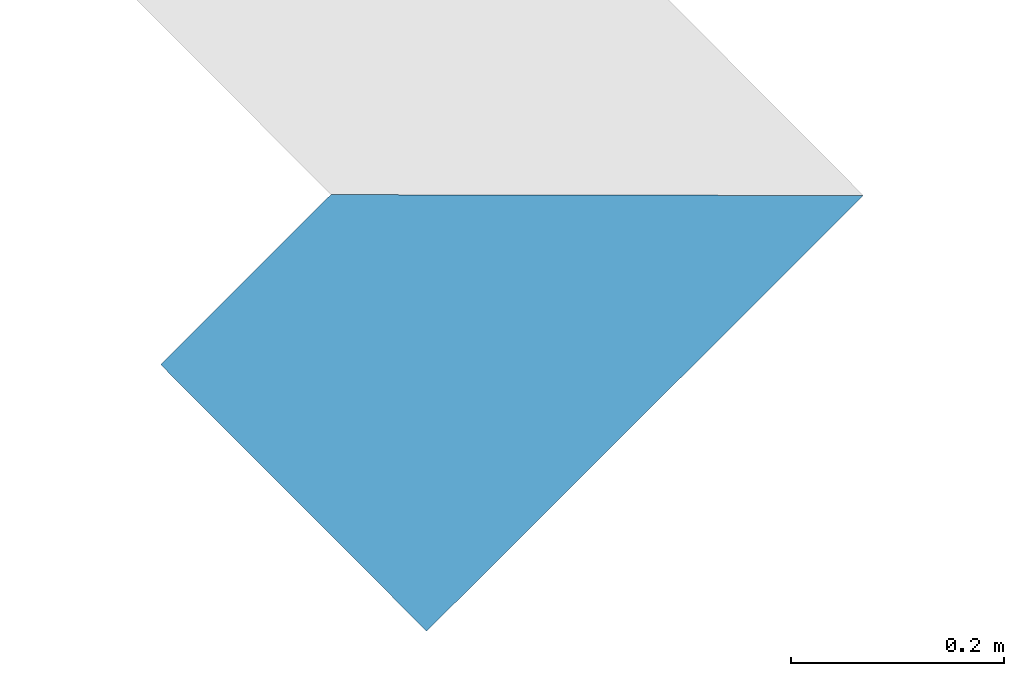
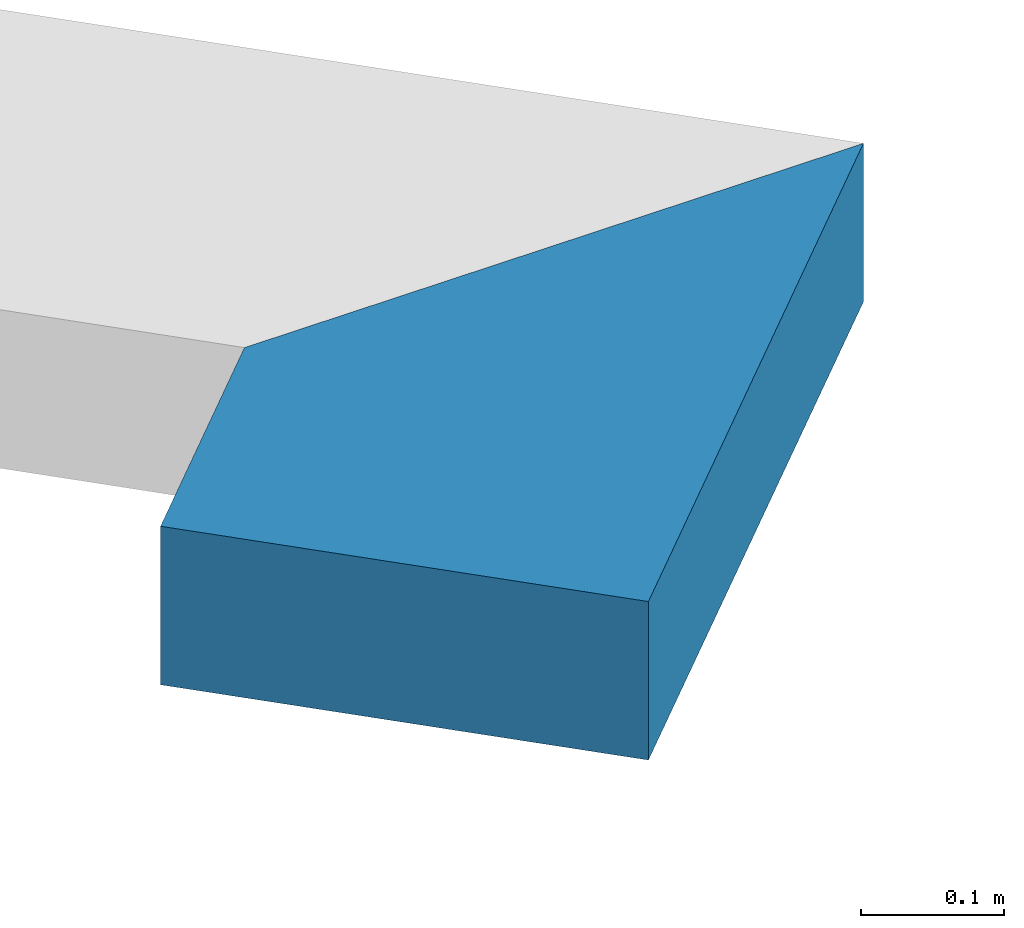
# One storey, part 34 of 91: 1 wall.
"""IFC2X3 building model written with IfcOpenShell, lengths in metres."""

import ifcopenshell
import ifcopenshell.guid

model = None  # the IFC model being written
_history = None  # IfcOwnerHistory: only IFC2X3 demands one
_inside = {}  # id of a spatial element -> (the spatial element, [elements in it])
_under = {}  # id of a project, library or spatial element -> (it, [spatial elements below it])
_declared = {}  # id of a project -> (the project, [libraries it declares])
_typed = {}  # id of a type object -> (the type object, [elements of that type])
_made_of = {}  # id of a material, layer set ... -> (it, [elements and type objects made of it])


def new_model(schema):
    """Start an empty IFC model of exactly this schema.

    Asked for "IFC4X3", IfcOpenShell would pick the latest addendum, in which some entities
    have other attributes; the version numbers below select the first issue.
    IFC2X3 requires an IfcOwnerHistory on every rooted entity: one is made here for all.
    """
    global model, _history
    if schema == "IFC4X3":
        model = ifcopenshell.file(schema_version=(4, 3, 0, 0))
    else:
        model = ifcopenshell.file(schema=schema)
    _inside.clear()
    _under.clear()
    _declared.clear()
    _typed.clear()
    _made_of.clear()
    _history = None
    if model.schema == "IFC2X3":
        org = make("IfcOrganization", Name="unknown")
        user = make(
            "IfcPersonAndOrganization",
            ThePerson=make("IfcPerson", FamilyName="unknown"),
            TheOrganization=org,
        )
        app = make(
            "IfcApplication",
            ApplicationDeveloper=org,
            Version="unknown",
            ApplicationFullName="unknown",
            ApplicationIdentifier="unknown",
        )
        _history = make(
            "IfcOwnerHistory",
            OwningUser=user,
            OwningApplication=app,
            ChangeAction="ADDED",
            CreationDate=0,
        )
    return model


def make(cls, **values):
    """One entity of the class cls with the attributes given. An attribute that is None is left unset."""
    return model.create_entity(
        cls, **{name: value for name, value in values.items() if value is not None}
    )


def entity(cls, *values):
    """Any entity or typed value of the class cls, its attributes in the order of the schema. None: left unset."""
    e = model.create_entity(cls)
    for i, value in enumerate(values):
        if value is not None:
            e[i] = value
    return e


def rooted(cls, **values):
    """An entity with a GlobalId (a new one), such as an element, a storey or a relation."""
    return make(cls, GlobalId=ifcopenshell.guid.new(), OwnerHistory=_history, **values)


def si_unit(unit_type, name, prefix=None):
    """IfcSIUnit, for example si_unit("LENGTHUNIT", "METRE", prefix="MILLI")."""
    return make("IfcSIUnit", UnitType=unit_type, Prefix=prefix, Name=name)


def converted_unit(unit_type, name, factor, base, dimensions=None, offset=None):
    """IfcConversionBasedUnit, such as the inch: factor (a typed value) times the base unit."""
    return make(
        "IfcConversionBasedUnit"
        if offset is None
        else "IfcConversionBasedUnitWithOffset",
        ConversionOffset=offset,
        Dimensions=None
        if dimensions is None
        else entity("IfcDimensionalExponents", *dimensions),
        UnitType=unit_type,
        Name=name,
        ConversionFactor=make(
            "IfcMeasureWithUnit", ValueComponent=factor, UnitComponent=base
        ),
    )


def derived_unit(unit_type, elements):
    """IfcDerivedUnit: a product of units, each with its exponent."""
    return make(
        "IfcDerivedUnit",
        Elements=[
            make("IfcDerivedUnitElement", Unit=unit, Exponent=power)
            for unit, power in elements
        ],
        UnitType=unit_type,
    )


def money_unit(currency):
    """IfcMonetaryUnit."""
    return make("IfcMonetaryUnit", Currency=currency)


def assignment(units):
    """IfcUnitAssignment: the units of a project."""
    return None if units is None else make("IfcUnitAssignment", Units=units)


def point(xyz):
    """IfcCartesianPoint."""
    return None if xyz is None else make("IfcCartesianPoint", Coordinates=xyz)


def direction(xyz):
    """IfcDirection."""
    return None if xyz is None else make("IfcDirection", DirectionRatios=xyz)


def frame(location, z_axis=None, x_axis=None):
    """IfcAxis2Placement3D, a coordinate frame: its origin and axes. An axis left out is left unset."""
    return make(
        "IfcAxis2Placement3D",
        Location=point(location),
        Axis=direction(z_axis),
        RefDirection=direction(x_axis),
    )


def origin_with_axes():
    """The frame at (0, 0, 0) with the z axis (0, 0, 1) and the x axis (1, 0, 0) written out."""
    return frame((0.0, 0.0, 0.0), z_axis=(0.0, 0.0, 1.0), x_axis=(1.0, 0.0, 0.0))


def place(relative_to, where):
    """IfcLocalPlacement: puts the frame where relative to a parent placement (None: the world)."""
    return make(
        "IfcLocalPlacement", PlacementRelTo=relative_to, RelativePlacement=where
    )


def context(
    kind, dimensions, precision=None, world=None, true_north=None, identifier=None
):
    """IfcGeometricRepresentationContext, for example the 3D "Model" context."""
    return make(
        "IfcGeometricRepresentationContext",
        ContextIdentifier=identifier,
        ContextType=kind,
        CoordinateSpaceDimension=dimensions,
        Precision=precision,
        WorldCoordinateSystem=world,
        TrueNorth=true_north,
    )


def subcontext(parent, identifier, kind, view, scale=None):
    """IfcGeometricRepresentationSubContext, for example "Body" below "Model"."""
    return make(
        "IfcGeometricRepresentationSubContext",
        ContextIdentifier=identifier,
        ContextType=kind,
        ParentContext=parent,
        TargetScale=scale,
        TargetView=view,
    )


def project(units=None, contexts=None):
    """IfcProject with its units and contexts."""
    return rooted(
        "IfcProject",
        Name="project",
        RepresentationContexts=contexts,
        UnitsInContext=assignment(units),
    )


def spatial(cls, under=None, at=None, **own):
    """A site, building, storey or space (cls), placed at a placement, below another one or the project."""
    s = rooted(cls, ObjectPlacement=at, **own)
    if under is not None:
        _under.setdefault(under.id(), (under, []))[1].append(s)
    return s


def polyline(points):
    """IfcPolyline through the points."""
    return make("IfcPolyline", Points=[point(p) for p in points])


def outline(outer, holes=None, kind="AREA"):
    """IfcArbitraryClosedProfileDef: a profile drawn as a closed curve; with holes, ...WithVoids."""
    if holes is None:
        return make("IfcArbitraryClosedProfileDef", ProfileType=kind, OuterCurve=outer)
    return make(
        "IfcArbitraryProfileDefWithVoids",
        ProfileType=kind,
        OuterCurve=outer,
        InnerCurves=holes,
    )


def extrude(swept, where, along, depth):
    """IfcExtrudedAreaSolid: the profile swept, set in the frame where, extruded along a direction by depth."""
    return make(
        "IfcExtrudedAreaSolid",
        SweptArea=swept,
        Position=where,
        ExtrudedDirection=direction(along),
        Depth=depth,
    )


def shape(context_of_items, identifier, shape_type, items):
    """IfcShapeRepresentation: the items that make up one representation, for example the "Body"."""
    return make(
        "IfcShapeRepresentation",
        ContextOfItems=context_of_items,
        RepresentationIdentifier=identifier,
        RepresentationType=shape_type,
        Items=items,
    )


def material(Name=None, Category=None):
    """IfcMaterial."""
    return make("IfcMaterial", Name=Name, Category=Category)


def layer(
    of_material, thickness, ventilated=None, Name=None, Category=None, Priority=None
):
    """IfcMaterialLayer: one layer of a wall or slab, of a material (None: an air gap)."""
    return make(
        "IfcMaterialLayer",
        Material=of_material,
        LayerThickness=thickness,
        IsVentilated=ventilated,
        Name=Name,
        Category=Category,
        Priority=Priority,
    )


def layer_set(layers, Name=None):
    """IfcMaterialLayerSet."""
    return make("IfcMaterialLayerSet", MaterialLayers=layers, LayerSetName=Name)


def layer_usage(for_layer_set, set_direction, sense, offset, extent=None):
    """IfcMaterialLayerSetUsage: how a layer set lies in its element."""
    return make(
        "IfcMaterialLayerSetUsage",
        ForLayerSet=for_layer_set,
        LayerSetDirection=set_direction,
        DirectionSense=sense,
        OffsetFromReferenceLine=offset,
        ReferenceExtent=extent,
    )


def made_of(thing, what):
    """Note that an element or type object is made of a material, layer set ...; save() writes the relation."""
    if what is not None:
        _made_of.setdefault(what.id(), (what, []))[1].append(thing)
    return thing


def type_object(cls, material=None, **own):
    """A type object (cls), such as IfcWallType, which elements share."""
    return made_of(rooted(cls, **own), material)


def element(
    cls,
    number,
    at=None,
    inside=None,
    cuts=None,
    type_object=None,
    material=None,
    context=None,
    identifier="Body",
    shape_type=None,
    held_by="IfcProductDefinitionShape",
    body=None,
    shapes=None,
    **own,
):
    """One element of the class cls, such as IfcWall. Its Tag is "e" and its number.

    at: its placement. inside: the storey or other place that contains it. cuts: it is an
    opening in that element (IfcRelVoidsElement). A single representation is given by context,
    identifier, shape_type and body (its items); several are given by shapes. held_by: the class
    of the entity that holds the representations. save() writes the other relations.
    """
    e = rooted(cls, Tag="e%d" % number, ObjectPlacement=at, **own)
    if body is not None:
        shapes = [shape(context, identifier, shape_type, body)]
    if shapes is not None:
        e.Representation = make(held_by, Representations=shapes)
    if inside is not None:
        _inside.setdefault(inside.id(), (inside, []))[1].append(e)
    if cuts is not None:
        rooted(
            "IfcRelVoidsElement", RelatingBuildingElement=cuts, RelatedOpeningElement=e
        )
    if type_object is not None:
        _typed.setdefault(type_object.id(), (type_object, []))[1].append(e)
    return made_of(e, material)


def aggregate(whole, parts):
    """IfcRelAggregates: a whole, such as a stair, and the parts it consists of."""
    return rooted("IfcRelAggregates", RelatingObject=whole, RelatedObjects=parts)


def save(model, path):
    """Write the relations noted so far, then the file.

    IfcRelAggregates (storeys below a building ...), IfcRelContainedInSpatialStructure (elements
    in a storey), IfcRelDefinesByType, IfcRelAssociatesMaterial and IfcRelDeclares: one each for
    every whole, place, type object, material and project.
    """
    for whole, parts in _under.values():
        aggregate(whole, parts)
    for where, things in _inside.values():
        rooted(
            "IfcRelContainedInSpatialStructure",
            RelatedElements=things,
            RelatingStructure=where,
        )
    for kind, things in _typed.values():
        rooted("IfcRelDefinesByType", RelatedObjects=things, RelatingType=kind)
    for what, things in _made_of.values():
        rooted("IfcRelAssociatesMaterial", RelatedObjects=things, RelatingMaterial=what)
    for by, libraries in _declared.values():
        rooted("IfcRelDeclares", RelatingContext=by, RelatedDefinitions=libraries)
    model.write(path)


model = new_model("IFC2X3")

# Units and contexts
model_context = context("Model", 3, precision=1e-05, world=origin_with_axes(), true_north=direction((0.0, 1.0)))
body_context = subcontext(model_context, "Body", "Model", "MODEL_VIEW")
ifc_project = project(units=[si_unit("LENGTHUNIT", "METRE"), si_unit("AREAUNIT", "SQUARE_METRE"), si_unit("VOLUMEUNIT", "CUBIC_METRE"), converted_unit("PLANEANGLEUNIT", "DEGREE", entity("IfcPlaneAngleMeasure", 0.0174532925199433), si_unit("PLANEANGLEUNIT", "RADIAN"), dimensions=[0, 0, 0, 0, 0, 0, 0]), money_unit("EUR"), converted_unit("TIMEUNIT", "Year", entity("IfcTimeMeasure", 31557600.0), si_unit("TIMEUNIT", "SECOND"), dimensions=[0, 0, 1, 0, 0, 0, 0]), si_unit("MASSUNIT", "GRAM", prefix="KILO"), si_unit("THERMODYNAMICTEMPERATUREUNIT", "DEGREE_CELSIUS"), si_unit("LUMINOUSINTENSITYUNIT", "LUMEN"), si_unit("ENERGYUNIT", "JOULE", prefix="MEGA"), derived_unit("THERMALCONDUCTANCEUNIT", [(si_unit("POWERUNIT", "WATT"), 1), (si_unit("LENGTHUNIT", "METRE"), -1), (si_unit("THERMODYNAMICTEMPERATUREUNIT", "KELVIN"), -1)]), derived_unit("SPECIFICHEATCAPACITYUNIT", [(si_unit("ENERGYUNIT", "JOULE"), 1), (si_unit("MASSUNIT", "GRAM", prefix="KILO"), -1), (si_unit("THERMODYNAMICTEMPERATUREUNIT", "KELVIN"), -1)]), derived_unit("MASSDENSITYUNIT", [(si_unit("MASSUNIT", "GRAM", prefix="KILO"), 1), (si_unit("VOLUMEUNIT", "CUBIC_METRE"), -1)])], contexts=[model_context])

# Site, building, storey
site_placement = place(None, origin_with_axes())
site = spatial("IfcSite", under=ifc_project, at=site_placement, Name="Site", CompositionType="ELEMENT")
building_placement = place(site_placement, origin_with_axes())
building = spatial("IfcBuilding", under=site, at=building_placement, Name="Bâtiment", CompositionType="ELEMENT")
storey_placement = place(building_placement, origin_with_axes())
storey = spatial("IfcBuildingStorey", under=building, at=storey_placement, Name="RDC", CompositionType="ELEMENT", Elevation=0.0)

# Wall
ifc_material_1 = material(Name="*GENERIQUE - ENDUIT EXT")
ifc_layer_1 = layer(ifc_material_1, 0.02, ventilated="UNKNOWN")
ifc_material_2 = material(Name="*GENERIQUE - MAÇONNERIE")
ifc_layer_2 = layer(ifc_material_2, 0.2, ventilated="UNKNOWN")
ifc_material_3 = material(Name="*GENERIQUE - ISOLATION INT")
ifc_layer_3 = layer(ifc_material_3, 0.12, ventilated="UNKNOWN")
ifc_material_4 = material(Name="*PLAQUE DE PLATRE - DOUBLAGE")
ifc_layer_4 = layer(ifc_material_4, 0.013, ventilated="UNKNOWN")
ifc_layer_set = layer_set([ifc_layer_1, ifc_layer_2, ifc_layer_3, ifc_layer_4], Name="*Mur MITI 36")
ifc_layer_usage = layer_usage(ifc_layer_set, "AXIS2", "POSITIVE", -0.02)
wall_type = type_object("IfcWallType", Name="*Mur MITI 36 353", PredefinedType="NOTDEFINED")
wall_placement = place(storey_placement, frame((27.83450494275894, -102.0479323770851, 3.204798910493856), z_axis=(0.0, 0.0, 1.0), x_axis=(-0.7078919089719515, -0.7063207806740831, 0.0)))
element("IfcWallStandardCase", 1, at=wall_placement, inside=storey, type_object=wall_type, material=ifc_layer_usage, Name="MC_AGL_Ext-062", context=body_context, shape_type="SweptSolid", body=[
    extrude(outline(polyline([(0.01998193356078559, -0.01999999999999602), (0.2453738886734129, -0.02000000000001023), (0.2453738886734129, 0.3329999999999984), (-0.3326991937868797, 0.3329999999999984), (0.01998193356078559, -0.01999999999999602)])), origin_with_axes(), (0.0, 0.0, 1.0), 0.1352010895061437),
])

save(model, "model.ifc")
